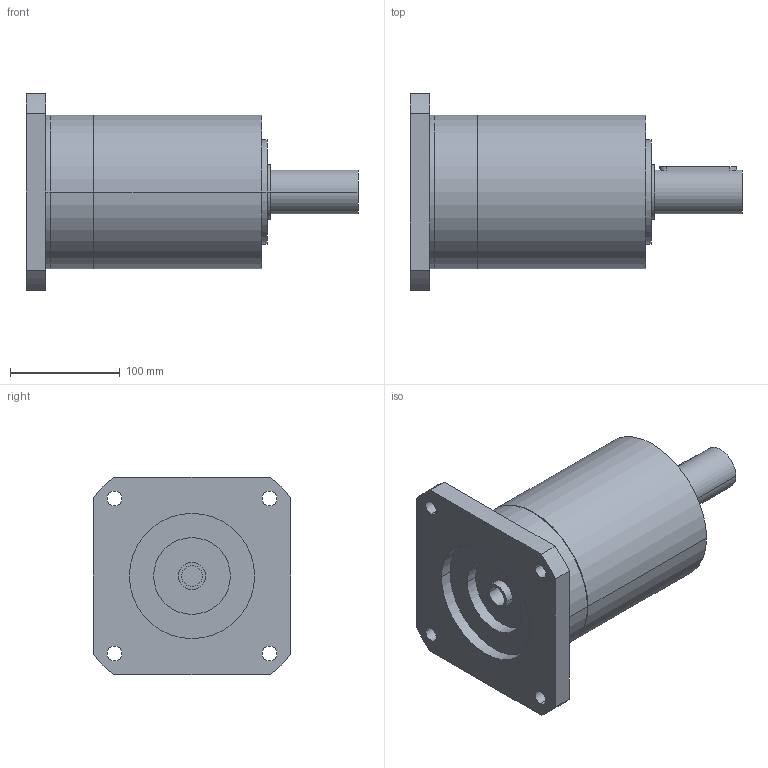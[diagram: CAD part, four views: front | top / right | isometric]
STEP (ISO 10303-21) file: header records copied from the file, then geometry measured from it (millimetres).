
FILE_DESCRIPTION(('CoCreate Modeling STEP Export'),'2;1');
FILE_NAME('GPR150_ig-9-12-16-20-28-35_40_B14_19_P09.stp','2014-08-19T17:03:20',(''),(''),'CoCreate Modeling STEP processor for AP214 (Solid Model)','CoCreate Modeling 16.00C 25-Feb-2009 (C) Parametric Technology GmbH','');
FILE_SCHEMA(('AUTOMOTIVE_DESIGN { 1 0 10303 214 1 1 1 1 }'));
Length unit declared in the file: millimetre
Products named in the file (2): GPR150_ig-9-12-16-20-28-35_40_B14_19_P09
Assembly tree (1 placements, depth 2):
  GPR150_ig-9-12-16-20-28-35_40_B14_19_P09
    GPR150_ig-9-12-16-20-28-35_40_B14_19_P09
Bounding box: 303 x 180 x 180 mm (x, y, z)
Volume: 3562015.1 mm3; surface area: 191573 mm2
Topology: 1 solids, 1 shells, 73 faces, 196 edges, 138 vertices
Faces by surface type: cylinder 44, plane 23, cone 6
Entity records: 2043 total; most frequent: CARTESIAN_POINT 397, ORIENTED_EDGE 388, DIRECTION 274, EDGE_CURVE 194, VERTEX_POINT 138, AXIS2_PLACEMENT_3D 103, EDGE_LOOP 96, FACE_OUTER_BOUND 73
